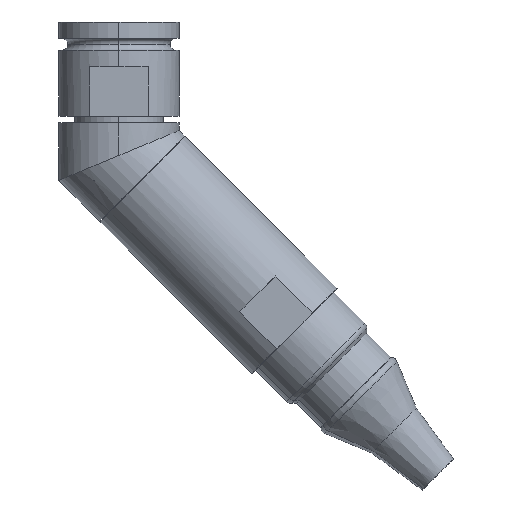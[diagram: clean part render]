
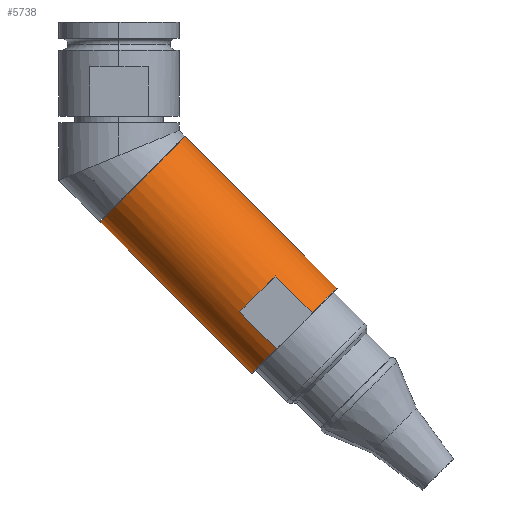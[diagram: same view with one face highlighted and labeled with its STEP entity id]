
A CAD part, left-side view. The second image highlights one B-rep face of the part: STEP entity #5738.
In plain terms, the highlighted cylindrical face has radius 11.62 mm (diameter 23.241 mm), a partial arc.
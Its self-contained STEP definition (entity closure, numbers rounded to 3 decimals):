
#11 = VECTOR ( 'NONE', #3457, 1000. ) ;
#16 = EDGE_CURVE ( 'NONE', #3366, #6068, #2001, .T. ) ;
#41 = CARTESIAN_POINT ( 'NONE',  ( 0., -4.571, -24.624 ) ) ;
#43 = EDGE_CURVE ( 'NONE', #6068, #1299, #3044, .T. ) ;
#201 = VERTEX_POINT ( 'NONE', #4621 ) ;
#544 = CARTESIAN_POINT ( 'NONE',  ( 0., 3.646, -32.841 ) ) ;
#632 = AXIS2_PLACEMENT_3D ( 'NONE', #2512, #5386, #4889 ) ;
#655 = DIRECTION ( 'NONE',  ( 0., 0.707, 0.707 ) ) ;
#837 = DIRECTION ( 'NONE',  ( 0., 0.707, 0.707 ) ) ;
#947 = AXIS2_PLACEMENT_3D ( 'NONE', #41, #655, #1022 ) ;
#1008 = LINE ( 'NONE', #4334, #11 ) ;
#1022 = DIRECTION ( 'NONE',  ( 0., -0.707, 0.707 ) ) ;
#1035 = EDGE_CURVE ( 'NONE', #4246, #201, #1471, .T. ) ;
#1130 = VERTEX_POINT ( 'NONE', #2522 ) ;
#1165 = DIRECTION ( 'NONE',  ( 0., -0.707, -0.707 ) ) ;
#1205 = ORIENTED_EDGE ( 'NONE', *, *, #16, .F. ) ;
#1299 = VERTEX_POINT ( 'NONE', #5980 ) ;
#1439 = AXIS2_PLACEMENT_3D ( 'NONE', #4048, #5388, #5881 ) ;
#1470 = CARTESIAN_POINT ( 'NONE',  ( -10.541, -23.204, -50.174 ) ) ;
#1471 = CIRCLE ( 'NONE', #4975, 11.62 ) ;
#1493 = CYLINDRICAL_SURFACE ( 'NONE', #947, 11.62 ) ;
#1585 = EDGE_CURVE ( 'NONE', #2113, #1130, #2410, .T. ) ;
#1696 = DIRECTION ( 'NONE',  ( 0., -0.707, -0.707 ) ) ;
#1778 = VECTOR ( 'NONE', #2442, 1000. ) ;
#1827 = DIRECTION ( 'NONE',  ( 0., -0.707, 0.707 ) ) ;
#2001 = CIRCLE ( 'NONE', #3004, 11.62 ) ;
#2113 = VERTEX_POINT ( 'NONE', #5928 ) ;
#2251 = CARTESIAN_POINT ( 'NONE',  ( -10.541, -37.215, -50.352 ) ) ;
#2268 = VERTEX_POINT ( 'NONE', #2358 ) ;
#2297 = EDGE_CURVE ( 'NONE', #201, #2268, #4120, .T. ) ;
#2305 = VECTOR ( 'NONE', #1696, 1000. ) ;
#2358 = CARTESIAN_POINT ( 'NONE',  ( 0., -12.788, -16.407 ) ) ;
#2410 = LINE ( 'NONE', #544, #1778 ) ;
#2442 = DIRECTION ( 'NONE',  ( 0., 0.707, 0.707 ) ) ;
#2448 = EDGE_CURVE ( 'NONE', #3366, #4246, #1008, .T. ) ;
#2512 = CARTESIAN_POINT ( 'NONE',  ( 0., -33.757, -53.81 ) ) ;
#2522 = CARTESIAN_POINT ( 'NONE',  ( 0., 3.646, -32.841 ) ) ;
#2686 = ORIENTED_EDGE ( 'NONE', *, *, #5568, .F. ) ;
#3004 = AXIS2_PLACEMENT_3D ( 'NONE', #5922, #1165, #5022 ) ;
#3044 = LINE ( 'NONE', #4961, #2305 ) ;
#3145 = ORIENTED_EDGE ( 'NONE', *, *, #43, .F. ) ;
#3272 = CARTESIAN_POINT ( 'NONE',  ( -10.541, -30.121, -43.257 ) ) ;
#3317 = CIRCLE ( 'NONE', #632, 11.62 ) ;
#3366 = VERTEX_POINT ( 'NONE', #3272 ) ;
#3457 = DIRECTION ( 'NONE',  ( 0., -0.707, -0.707 ) ) ;
#3497 = ORIENTED_EDGE ( 'NONE', *, *, #1035, .T. ) ;
#3682 = DIRECTION ( 'NONE',  ( 0., 0.707, 0.707 ) ) ;
#3855 = EDGE_LOOP ( 'NONE', ( #4268, #4312, #3145, #1205, #5801, #3497, #5815, #2686 ) ) ;
#3914 = EDGE_CURVE ( 'NONE', #2113, #1299, #3317, .T. ) ;
#4048 = CARTESIAN_POINT ( 'NONE',  ( 0., -4.571, -24.624 ) ) ;
#4120 = LINE ( 'NONE', #6022, #4793 ) ;
#4246 = VERTEX_POINT ( 'NONE', #2251 ) ;
#4268 = ORIENTED_EDGE ( 'NONE', *, *, #1585, .F. ) ;
#4312 = ORIENTED_EDGE ( 'NONE', *, *, #3914, .T. ) ;
#4316 = FACE_OUTER_BOUND ( 'NONE', #3855, .T. ) ;
#4334 = CARTESIAN_POINT ( 'NONE',  ( -10.541, -30.121, -43.257 ) ) ;
#4621 = CARTESIAN_POINT ( 'NONE',  ( 0., -41.974, -45.593 ) ) ;
#4793 = VECTOR ( 'NONE', #3682, 1000. ) ;
#4889 = DIRECTION ( 'NONE',  ( 0., -0.707, 0.707 ) ) ;
#4961 = CARTESIAN_POINT ( 'NONE',  ( -10.541, -23.204, -50.174 ) ) ;
#4975 = AXIS2_PLACEMENT_3D ( 'NONE', #5080, #837, #1827 ) ;
#5022 = DIRECTION ( 'NONE',  ( 0., -0.707, 0.707 ) ) ;
#5080 = CARTESIAN_POINT ( 'NONE',  ( 0., -33.757, -53.81 ) ) ;
#5235 = CIRCLE ( 'NONE', #1439, 11.62 ) ;
#5386 = DIRECTION ( 'NONE',  ( 0., 0.707, 0.707 ) ) ;
#5388 = DIRECTION ( 'NONE',  ( 0., 0.707, 0.707 ) ) ;
#5568 = EDGE_CURVE ( 'NONE', #1130, #2268, #5235, .T. ) ;
#5738 = ADVANCED_FACE ( 'NONE', ( #4316 ), #1493, .T. ) ;
#5801 = ORIENTED_EDGE ( 'NONE', *, *, #2448, .T. ) ;
#5815 = ORIENTED_EDGE ( 'NONE', *, *, #2297, .T. ) ;
#5881 = DIRECTION ( 'NONE',  ( 0., -0.707, 0.707 ) ) ;
#5922 = CARTESIAN_POINT ( 'NONE',  ( 0., -26.662, -46.716 ) ) ;
#5928 = CARTESIAN_POINT ( 'NONE',  ( 0., -25.54, -62.027 ) ) ;
#5980 = CARTESIAN_POINT ( 'NONE',  ( -10.541, -30.298, -57.269 ) ) ;
#6022 = CARTESIAN_POINT ( 'NONE',  ( 0., -12.788, -16.407 ) ) ;
#6068 = VERTEX_POINT ( 'NONE', #1470 ) ;
